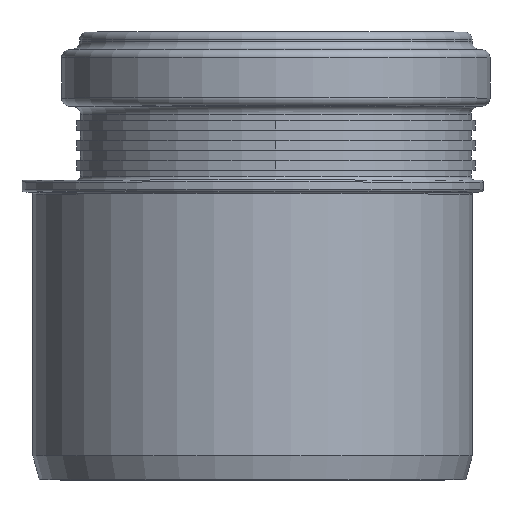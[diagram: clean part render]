
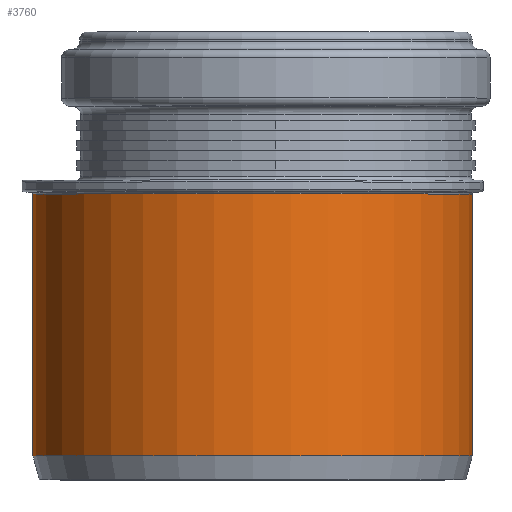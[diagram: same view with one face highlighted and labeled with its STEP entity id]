
A CAD part, top view. The second image highlights one B-rep face of the part: STEP entity #3760.
In plain terms, the highlighted cylindrical face has radius 55 mm (diameter 110 mm), a partial arc.
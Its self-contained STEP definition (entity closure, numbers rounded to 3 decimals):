
#352=DIRECTION('',(0.,0.,1.));
#353=VECTOR('',#352,65.526);
#354=CARTESIAN_POINT('',(-49.2,0.,40.674));
#355=LINE('14521',#354,#353);
#356=DIRECTION('',(0.,0.,1.));
#357=VECTOR('',#356,65.526);
#358=CARTESIAN_POINT('',(60.8,0.,40.674));
#359=LINE('14522',#358,#357);
#360=CARTESIAN_POINT('',(5.8,0.,40.674));
#361=DIRECTION('',(0.,0.,-1.));
#362=DIRECTION('',(1.,0.,0.));
#363=AXIS2_PLACEMENT_3D('',#360,#361,#362);
#373=CARTESIAN_POINT('',(5.8,0.,106.2));
#374=DIRECTION('',(0.,0.,1.));
#375=DIRECTION('',(-1.,0.,0.));
#376=AXIS2_PLACEMENT_3D('',#373,#374,#375);
#2898=CARTESIAN_POINT('',(-49.2,0.,106.2));
#2900=VERTEX_POINT('',#2898);
#2902=CARTESIAN_POINT('',(60.8,0.,106.2));
#2904=VERTEX_POINT('',#2902);
#2918=CARTESIAN_POINT('',(-49.2,0.,40.674));
#2919=CARTESIAN_POINT('',(60.8,0.,40.674));
#2920=VERTEX_POINT('',#2918);
#2921=VERTEX_POINT('',#2919);
#3747=CARTESIAN_POINT('',(5.8,0.,115.95));
#3748=DIRECTION('',(0.,0.,-1.));
#3749=DIRECTION('',(1.,0.,0.));
#3750=AXIS2_PLACEMENT_3D('',#3747,#3748,#3749);
#3751=CYLINDRICAL_SURFACE('13472',#3750,55.);
#3752=ORIENTED_EDGE('14521',*,*,#3742,.T.);
#3754=ORIENTED_EDGE('13475',*,*,#3753,.T.);
#3755=ORIENTED_EDGE('14522',*,*,#3738,.F.);
#3757=ORIENTED_EDGE('17152',*,*,#3756,.T.);
#3758=EDGE_LOOP('13472',(#3752,#3754,#3755,#3757));
#3759=FACE_OUTER_BOUND('13472',#3758,.F.);
#3760=ADVANCED_FACE('13472',(#3759),#3751,.T.);
#364=CIRCLE('17152',#363,55.);
#377=CIRCLE('13475',#376,55.);
#3738=EDGE_CURVE('14522',#2921,#2904,#359,.T.);
#3742=EDGE_CURVE('14521',#2920,#2900,#355,.T.);
#3753=EDGE_CURVE('13475',#2900,#2904,#377,.T.);
#3756=EDGE_CURVE('17152',#2921,#2920,#364,.T.);
